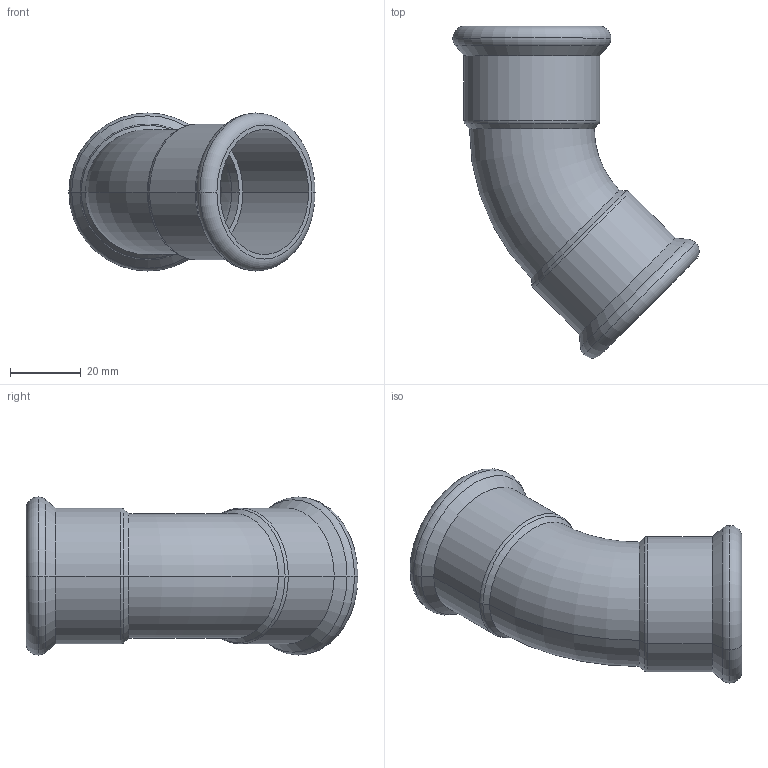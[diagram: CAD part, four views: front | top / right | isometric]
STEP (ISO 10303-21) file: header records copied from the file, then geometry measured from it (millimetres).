
FILE_DESCRIPTION(('CoCreate Modeling STEP Export'),'2;1');
FILE_NAME('C1413 35x35.stp','2014-11-11T16:49:38',(''),(''),'CoCreate Modeling STEP processor for AP214 (Solid Model)','CoCreate Modeling 17.00A 17-Jun-2010 (C) Parametric Technology GmbH','');
FILE_SCHEMA(('AUTOMOTIVE_DESIGN { 1 0 10303 214 1 1 1 1 }'));
Length unit declared in the file: millimetre
Products named in the file (2): C1413_35x35
Assembly tree (1 placements, depth 2):
  C1413_35x35
    C1413_35x35
Bounding box: 69.42 x 93.55 x 44.55 mm (x, y, z)
Volume: 20810.1 mm3; surface area: 22248.7 mm2
Topology: 1 solids, 1 shells, 52 faces, 114 edges, 68 vertices
Faces by surface type: cylinder 20, torus 16, plane 8, cone 8
Entity records: 1875 total; most frequent: CARTESIAN_POINT 842, ORIENTED_EDGE 228, DIRECTION 184, EDGE_CURVE 114, AXIS2_PLACEMENT_3D 78, VERTEX_POINT 68, EDGE_LOOP 58, FACE_OUTER_BOUND 52
